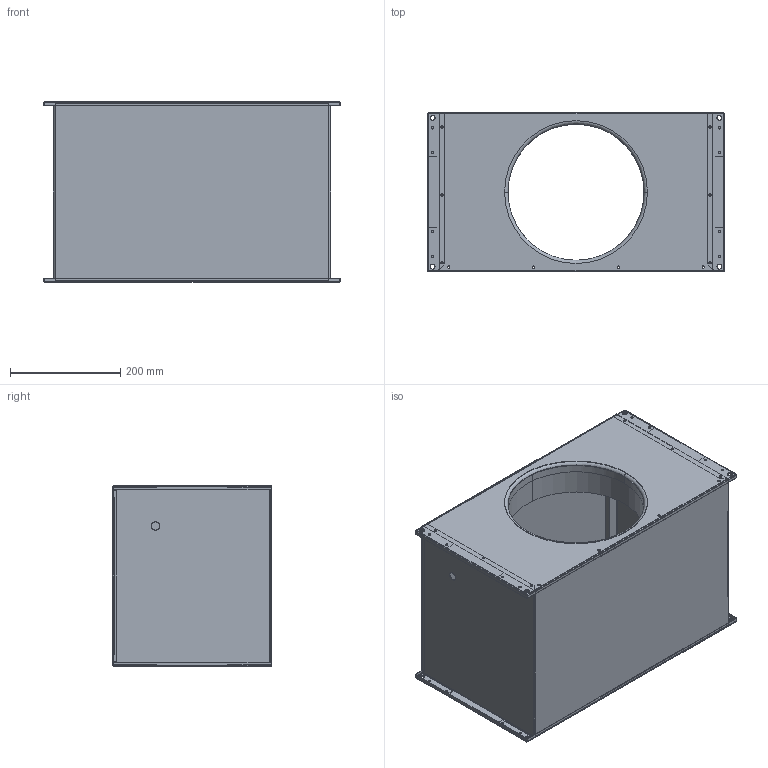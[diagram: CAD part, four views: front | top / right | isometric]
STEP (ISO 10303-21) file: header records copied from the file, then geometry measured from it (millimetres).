
FILE_DESCRIPTION (( 'STEP AP203' ), '1' );
FILE_NAME ('127744-00_ELKI5025E210.STEP', '2013-09-25T05:57:20', ( '' ), ( '' ), 'SwSTEP 2.0', 'SolidWorks 2012', '' );
FILE_SCHEMA (( 'CONFIG_CONTROL_DESIGN' ));
Length unit declared in the file: millimetre
Products named in the file (1): 127744-00_ELKI5025E210
Bounding box: 538 x 289 x 328 mm (x, y, z)
Surface area: 1803864.6 mm2 (no closed solid volume)
Topology: 0 solids, 40 shells, 427 faces, 1303 edges, 918 vertices
Faces by surface type: cylinder 255, plane 152, bspline 16, torus 4
Entity records: 15705 total; most frequent: CARTESIAN_POINT 3565, DIRECTION 2678, ORIENTED_EDGE 2111, EDGE_CURVE 1303, AXIS2_PLACEMENT_3D 1023, VERTEX_POINT 918, VECTOR 632, LINE 632
